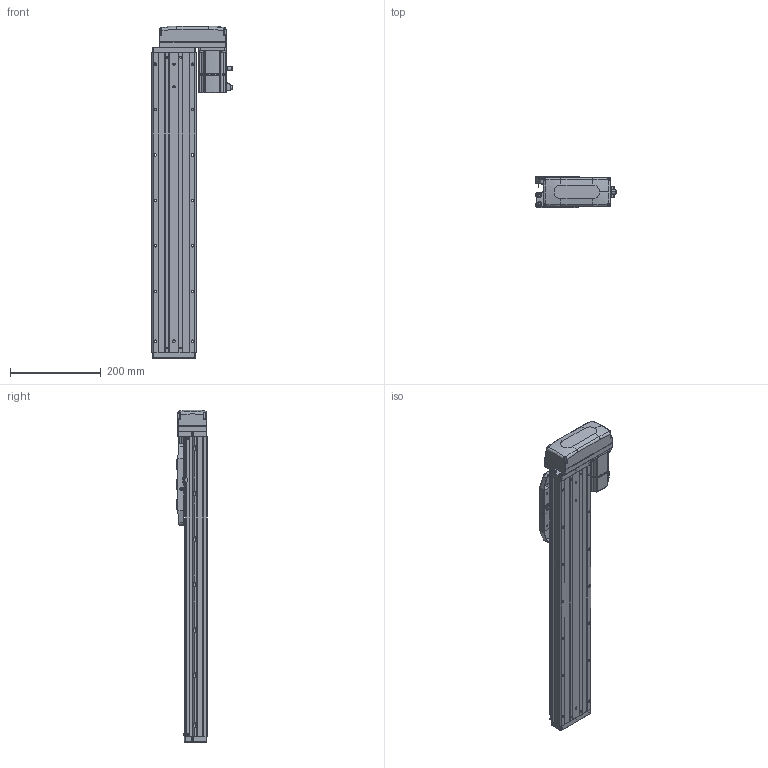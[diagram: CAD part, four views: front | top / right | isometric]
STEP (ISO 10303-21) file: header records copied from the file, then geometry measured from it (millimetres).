
FILE_DESCRIPTION (( 'STEP AP203' ), '1' );
FILE_NAME ('CTHA100-450-BL-M20-C4L.step', '2022-07-06T08:57:24', ( '微软用户' ), ( '微软中国' ), 'SwSTEP 2.0', 'SolidWorks 2020', '' );
FILE_SCHEMA (( 'CONFIG_CONTROL_DESIGN' ));
Length unit declared in the file: millimetre
Products named in the file (19): CTHA60-021; CTHA100-031; KTHA100-001_660; GBT77-2000 M3×3; CTHA86-030; KTHA100-004; GBT 70.1-M3℅6; GBT 70.3-M3℅6; KTHA100-005; GBT70.1 M5℅16; CTHA86-015-1_CTHA86-015-2; GB¨uT 70.2-M3¡Á5_M3¡Á6; CTHA60-016; CTHA86-033; EE_SX911P_R; _X2_4E0983F1_X0_200W_1; CTHA100-450-BL-M20-C4L; CTHA60-017; CTHA100-002
Assembly tree (64 placements, depth 2):
  CTHA100-450-BL-M20-C4L
    KTHA100-001_660
    KTHA100-004
    KTHA100-005
    GB¨uT 70.2-M3¡Á5_M3¡Á6  x10
    EE_SX911P_R  x3
    CTHA60-017  x3
    CTHA60-021  x2
    GBT77-2000 M3×3  x6
    GBT 70.1-M3℅6  x10
    GBT70.1 M5℅16  x14
    CTHA60-016  x2
    _X2_4E0983F1_X0_200W_1
    CTHA100-002
    CTHA100-031
    CTHA86-030  x2
    GBT 70.3-M3℅6  x4
    CTHA86-015-1_CTHA86-015-2
    CTHA86-033
Bounding box: 177.7 x 68 x 731 mm (x, y, z)
Volume: 3248905.3 mm3; surface area: 559317.6 mm2
Topology: 66 solids, 66 shells, 2649 faces, 6359 edges, 3940 vertices
Faces by surface type: plane 1380, cylinder 695, cone 351, torus 124, bspline 75, sphere 24
Entity records: 45346 total; most frequent: CARTESIAN_POINT 8923, DIRECTION 6984, ORIENTED_EDGE 6834, EDGE_CURVE 3417, AXIS2_PLACEMENT_3D 2373, VECTOR 2238, LINE 2238, VERTEX_POINT 2160
